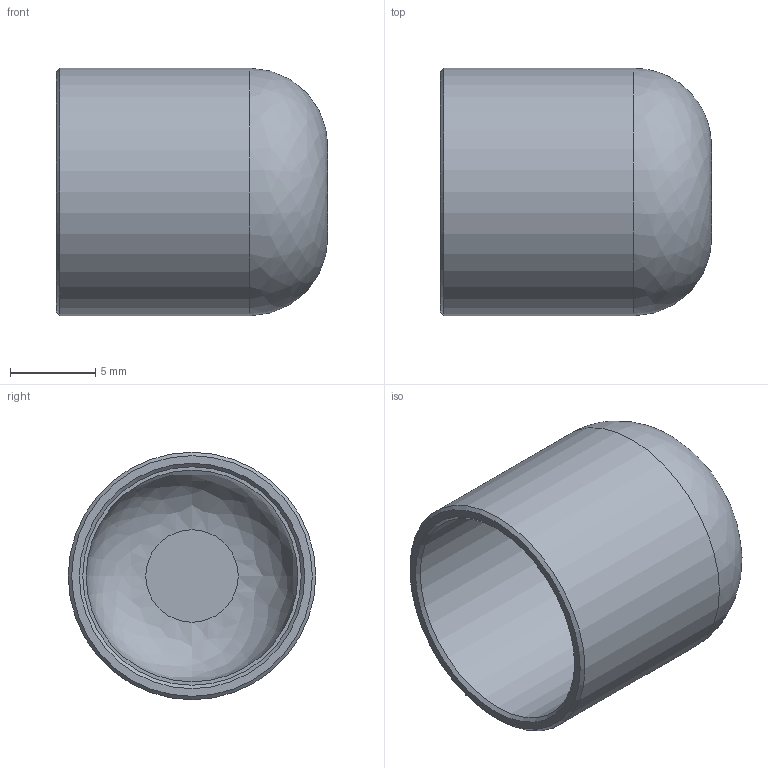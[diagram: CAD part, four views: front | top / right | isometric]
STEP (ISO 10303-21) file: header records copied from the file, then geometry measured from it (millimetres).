
FILE_DESCRIPTION((''),'2;1');
FILE_NAME('G:\SANHA-Ternat\Technik\Management\Bouwmaten + markeringen\z-maattekeningen 3D\29000s\2930112_3d.stp','2017-08-04T13:05:58',('vdvijverd'),(''),'Autodesk Inventor 2009','Autodesk Inventor 2009','');
FILE_SCHEMA(('AUTOMOTIVE_DESIGN { 1 0 10303 214 1 1 1 1 }'));
Length unit declared in the file: millimetre
Products named in the file (1): 2930112_3d
Bounding box: 15.9 x 14.52 x 14.52 mm (x, y, z)
Volume: 648.5 mm3; surface area: 1483 mm2
Topology: 1 solids, 1 shells, 11 faces, 17 edges, 10 vertices
Faces by surface type: plane 4, cylinder 3, cone 2, bspline 2
Full cylindrical faces by diameter (mm): 12.42 x1, 12.82 x1, 14.52 x1
Entity records: 320 total; most frequent: CARTESIAN_POINT 120, DIRECTION 40, AXIS2_PLACEMENT_3D 20, ORIENTED_EDGE 20, EDGE_LOOP 20, FACE_OUTER_BOUND 11, ADVANCED_FACE 11, VERTEX_POINT 10
